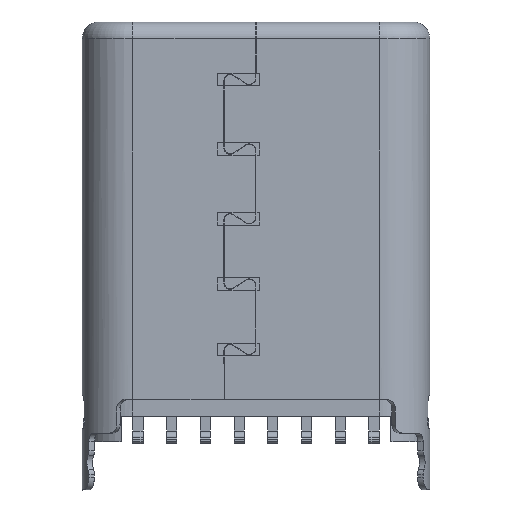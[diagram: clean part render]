
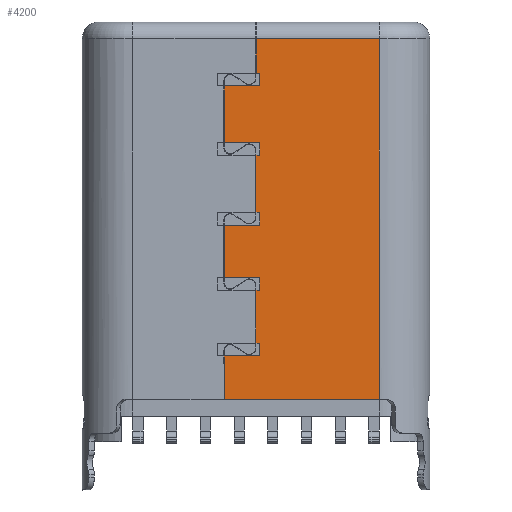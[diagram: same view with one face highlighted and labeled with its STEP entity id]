
A CAD part, front view. The second image highlights one B-rep face of the part: STEP entity #4200.
In plain terms, the highlighted planar face has unit normal (0, -1, 0).
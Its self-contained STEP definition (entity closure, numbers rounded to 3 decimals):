
#1562=CARTESIAN_POINT('',(-27.075,-1.199,-0.245));
#1563=VERTEX_POINT('',#1562);
#1571=CARTESIAN_POINT('',(-27.075,-1.197,-8.798));
#1572=VERTEX_POINT('',#1571);
#1573=CARTESIAN_POINT('',(-27.075,-1.199,-9.798));
#1574=DIRECTION('',(0.,0.0,1.0));
#1575=VECTOR('',#1574,1.0);
#1576=LINE('',#1573,#1575);
#1577=EDGE_CURVE('no 3729',#1572,#1563,#1576,.T.);
#4009=CARTESIAN_POINT('',(-30.,-1.199,-0.245));
#4010=VERTEX_POINT('',#4009);
#4011=CARTESIAN_POINT('',(-27.075,-1.199,-0.245));
#4012=DIRECTION('',(-1.0,0.0,0.0));
#4013=VECTOR('',#4012,1.0);
#4014=LINE('',#4011,#4013);
#4015=EDGE_CURVE('no 32888',#1563,#4010,#4014,.T.);
#4016=ORIENTED_EDGE('no 20230',*,*,#4015,.T.);
#4017=CARTESIAN_POINT('',(-30.,-1.199,-1.06));
#4018=VERTEX_POINT('',#4017);
#4019=CARTESIAN_POINT('',(-30.,-1.199,-1.06));
#4020=DIRECTION('',(0.0,0.0,1.0));
#4021=VECTOR('',#4020,1.0);
#4022=LINE('',#4019,#4021);
#4023=EDGE_CURVE('no 2095',#4018,#4010,#4022,.T.);
#4024=ORIENTED_EDGE('no 1417',*,*,#4023,.F.);
#4025=CARTESIAN_POINT('',(-29.91,-1.199,-1.06));
#4026=VERTEX_POINT('',#4025);
#4027=CARTESIAN_POINT('',(-30.,-1.199,-1.06));
#4028=DIRECTION('',(1.0,0.0,0.));
#4029=VECTOR('',#4028,1.0);
#4030=LINE('',#4027,#4029);
#4031=EDGE_CURVE('no 35814',#4018,#4026,#4030,.T.);
#4032=ORIENTED_EDGE('no 36987',*,*,#4031,.T.);
#4033=CARTESIAN_POINT('',(-29.91,-1.199,-1.363));
#4034=VERTEX_POINT('',#4033);
#4035=CARTESIAN_POINT('',(-29.91,-1.199,-1.06));
#4036=DIRECTION('',(0.,0.0,-1.0));
#4037=VECTOR('',#4036,1.0);
#4038=LINE('',#4035,#4037);
#4039=EDGE_CURVE('no 10866',#4026,#4034,#4038,.T.);
#4040=ORIENTED_EDGE('no 9708',*,*,#4039,.T.);
#4041=CARTESIAN_POINT('',(-30.75,-1.199,-1.363));
#4042=VERTEX_POINT('',#4041);
#4043=CARTESIAN_POINT('',(-29.91,-1.199,-1.363));
#4044=DIRECTION('',(-1.0,0.0,0.));
#4045=VECTOR('',#4044,1.0);
#4046=LINE('',#4043,#4045);
#4047=EDGE_CURVE('no 488',#4034,#4042,#4046,.T.);
#4048=ORIENTED_EDGE('no 30819',*,*,#4047,.T.);
#4049=CARTESIAN_POINT('',(-30.75,-1.199,-2.706));
#4050=VERTEX_POINT('',#4049);
#4051=CARTESIAN_POINT('',(-30.75,-1.199,-1.363));
#4052=DIRECTION('',(0.,0.0,-1.0));
#4053=VECTOR('',#4052,1.0);
#4054=LINE('',#4051,#4053);
#4055=EDGE_CURVE('no 26092',#4042,#4050,#4054,.T.);
#4056=ORIENTED_EDGE('no 33837',*,*,#4055,.T.);
#4057=CARTESIAN_POINT('',(-29.91,-1.199,-2.706));
#4058=VERTEX_POINT('',#4057);
#4059=CARTESIAN_POINT('',(-30.75,-1.199,-2.706));
#4060=DIRECTION('',(1.0,0.0,0.));
#4061=VECTOR('',#4060,1.0);
#4062=LINE('',#4059,#4061);
#4063=EDGE_CURVE('no 20711',#4050,#4058,#4062,.T.);
#4064=ORIENTED_EDGE('no 51961',*,*,#4063,.T.);
#4065=CARTESIAN_POINT('',(-29.91,-1.199,-3.009));
#4066=VERTEX_POINT('',#4065);
#4067=CARTESIAN_POINT('',(-29.91,-1.199,-2.706));
#4068=DIRECTION('',(0.,0.0,-1.0));
#4069=VECTOR('',#4068,1.0);
#4070=LINE('',#4067,#4069);
#4071=EDGE_CURVE('no 20732',#4058,#4066,#4070,.T.);
#4072=ORIENTED_EDGE('no 48028',*,*,#4071,.T.);
#4073=CARTESIAN_POINT('',(-30.,-1.199,-3.009));
#4074=VERTEX_POINT('',#4073);
#4075=CARTESIAN_POINT('',(-29.91,-1.199,-3.009));
#4076=DIRECTION('',(-1.0,0.0,0.));
#4077=VECTOR('',#4076,1.0);
#4078=LINE('',#4075,#4077);
#4079=EDGE_CURVE('no 3716',#4066,#4074,#4078,.T.);
#4080=ORIENTED_EDGE('no 22944',*,*,#4079,.T.);
#4081=CARTESIAN_POINT('',(-30.,-1.199,-4.364));
#4082=VERTEX_POINT('',#4081);
#4083=CARTESIAN_POINT('',(-30.,-1.199,-3.009));
#4084=DIRECTION('',(0.,0.0,-1.0));
#4085=VECTOR('',#4084,1.0);
#4086=LINE('',#4083,#4085);
#4087=EDGE_CURVE('no 430',#4074,#4082,#4086,.T.);
#4088=ORIENTED_EDGE('no 50928',*,*,#4087,.T.);
#4089=CARTESIAN_POINT('',(-29.91,-1.199,-4.364));
#4090=VERTEX_POINT('',#4089);
#4091=CARTESIAN_POINT('',(-30.,-1.199,-4.364));
#4092=DIRECTION('',(1.0,0.0,0.));
#4093=VECTOR('',#4092,1.0);
#4094=LINE('',#4091,#4093);
#4095=EDGE_CURVE('no 11493',#4082,#4090,#4094,.T.);
#4096=ORIENTED_EDGE('no 5475',*,*,#4095,.T.);
#4097=CARTESIAN_POINT('',(-29.91,-1.199,-4.667));
#4098=VERTEX_POINT('',#4097);
#4099=CARTESIAN_POINT('',(-29.91,-1.199,-4.364));
#4100=DIRECTION('',(0.,0.0,-1.0));
#4101=VECTOR('',#4100,1.0);
#4102=LINE('',#4099,#4101);
#4103=EDGE_CURVE('no 32263',#4090,#4098,#4102,.T.);
#4104=ORIENTED_EDGE('no 37728',*,*,#4103,.T.);
#4105=CARTESIAN_POINT('',(-30.75,-1.199,-4.667));
#4106=VERTEX_POINT('',#4105);
#4107=CARTESIAN_POINT('',(-29.91,-1.199,-4.667));
#4108=DIRECTION('',(-1.0,0.0,0.));
#4109=VECTOR('',#4108,1.0);
#4110=LINE('',#4107,#4109);
#4111=EDGE_CURVE('no 33327',#4098,#4106,#4110,.T.);
#4112=ORIENTED_EDGE('no 8401',*,*,#4111,.T.);
#4113=CARTESIAN_POINT('',(-30.75,-1.199,-5.91));
#4114=VERTEX_POINT('',#4113);
#4115=CARTESIAN_POINT('',(-30.75,-1.199,-4.667));
#4116=DIRECTION('',(0.,0.0,-1.0));
#4117=VECTOR('',#4116,1.0);
#4118=LINE('',#4115,#4117);
#4119=EDGE_CURVE('no 27466',#4106,#4114,#4118,.T.);
#4120=ORIENTED_EDGE('no 45490',*,*,#4119,.T.);
#4121=CARTESIAN_POINT('',(-29.91,-1.199,-5.91));
#4122=VERTEX_POINT('',#4121);
#4123=CARTESIAN_POINT('',(-30.75,-1.199,-5.91));
#4124=DIRECTION('',(1.0,0.0,0.));
#4125=VECTOR('',#4124,1.0);
#4126=LINE('',#4123,#4125);
#4127=EDGE_CURVE('no 21835',#4114,#4122,#4126,.T.);
#4128=ORIENTED_EDGE('no 15001',*,*,#4127,.T.);
#4129=CARTESIAN_POINT('',(-29.91,-1.199,-6.213));
#4130=VERTEX_POINT('',#4129);
#4131=CARTESIAN_POINT('',(-29.91,-1.199,-5.91));
#4132=DIRECTION('',(0.,0.0,-1.0));
#4133=VECTOR('',#4132,1.0);
#4134=LINE('',#4131,#4133);
#4135=EDGE_CURVE('no 28691',#4122,#4130,#4134,.T.);
#4136=ORIENTED_EDGE('no 52343',*,*,#4135,.T.);
#4137=CARTESIAN_POINT('',(-30.,-1.199,-6.213));
#4138=VERTEX_POINT('',#4137);
#4139=CARTESIAN_POINT('',(-29.91,-1.199,-6.213));
#4140=DIRECTION('',(-1.0,0.0,0.));
#4141=VECTOR('',#4140,1.0);
#4142=LINE('',#4139,#4141);
#4143=EDGE_CURVE('no 46864',#4130,#4138,#4142,.T.);
#4144=ORIENTED_EDGE('no 13343',*,*,#4143,.T.);
#4145=CARTESIAN_POINT('',(-30.,-1.199,-7.466));
#4146=VERTEX_POINT('',#4145);
#4147=CARTESIAN_POINT('',(-30.,-1.199,-6.213));
#4148=DIRECTION('',(0.,0.0,-1.0));
#4149=VECTOR('',#4148,1.0);
#4150=LINE('',#4147,#4149);
#4151=EDGE_CURVE('no 14071',#4138,#4146,#4150,.T.);
#4152=ORIENTED_EDGE('no 1625',*,*,#4151,.T.);
#4153=CARTESIAN_POINT('',(-29.91,-1.199,-7.466));
#4154=VERTEX_POINT('',#4153);
#4155=CARTESIAN_POINT('',(-30.,-1.199,-7.466));
#4156=DIRECTION('',(1.0,0.0,0.));
#4157=VECTOR('',#4156,1.0);
#4158=LINE('',#4155,#4157);
#4159=EDGE_CURVE('no 47498',#4146,#4154,#4158,.T.);
#4160=ORIENTED_EDGE('no 29511',*,*,#4159,.T.);
#4161=CARTESIAN_POINT('',(-29.91,-1.199,-7.769));
#4162=VERTEX_POINT('',#4161);
#4163=CARTESIAN_POINT('',(-29.91,-1.199,-7.466));
#4164=DIRECTION('',(0.,0.0,-1.0));
#4165=VECTOR('',#4164,1.0);
#4166=LINE('',#4163,#4165);
#4167=EDGE_CURVE('no 3479',#4154,#4162,#4166,.T.);
#4168=ORIENTED_EDGE('no 14033',*,*,#4167,.T.);
#4169=CARTESIAN_POINT('',(-30.75,-1.199,-7.769));
#4170=VERTEX_POINT('',#4169);
#4171=CARTESIAN_POINT('',(-29.91,-1.199,-7.769));
#4172=DIRECTION('',(-1.0,-0.0,0.));
#4173=VECTOR('',#4172,1.0);
#4174=LINE('',#4171,#4173);
#4175=EDGE_CURVE('no 28060',#4162,#4170,#4174,.T.);
#4176=ORIENTED_EDGE('no 3776',*,*,#4175,.T.);
#4177=CARTESIAN_POINT('',(-30.755,-1.196,-8.798));
#4178=VERTEX_POINT('',#4177);
#4179=CARTESIAN_POINT('',(-30.75,-1.199,-9.798));
#4180=DIRECTION('',(0.,0.0,1.0));
#4181=VECTOR('',#4180,1.0);
#4182=LINE('',#4179,#4181);
#4183=EDGE_CURVE('no 47938',#4178,#4170,#4182,.T.);
#4184=ORIENTED_EDGE('no 11029',*,*,#4183,.F.);
#4185=CARTESIAN_POINT('',(-27.075,-1.197,-8.798));
#4186=CARTESIAN_POINT('',(-28.302,-1.196,-8.798));
#4187=CARTESIAN_POINT('',(-29.528,-1.196,-8.798));
#4188=CARTESIAN_POINT('',(-30.755,-1.196,-8.798));
#4189=B_SPLINE_CURVE_WITH_KNOTS('',3,(#4185,#4186,#4187,#4188),.UNSPECIFIED.,.F.,.U.,
 (4,4),(0.0,3.68),.UNSPECIFIED.);
#4190=EDGE_CURVE('no 14804',#1572,#4178,#4189,.T.);
#4191=ORIENTED_EDGE('no 23418',*,*,#4190,.F.);
#4192=ORIENTED_EDGE('no 8747',*,*,#1577,.T.);
#4193=EDGE_LOOP('',(
    #4016,#4024,#4032,#4040,#4048,#4056,#4064,#4072,#4080,#4088,
    #4096,#4104,#4112,#4120,#4128,#4136,#4144,#4152,#4160,#4168,
    #4176,#4184,#4191,#4192));
#4194=FACE_OUTER_BOUND('',#4193,.T.);
#4195=CARTESIAN_POINT('',(-32.925,-1.199,-8.345));
#4196=DIRECTION('',(0.0,-1.0,0.0));
#4197=DIRECTION('',(0.0,0.0,-1.0));
#4198=AXIS2_PLACEMENT_3D('',#4195,#4196,#4197);
#4199=PLANE('',#4198);
#4200=ADVANCED_FACE('no 41795',(#4194),#4199,.T.);
